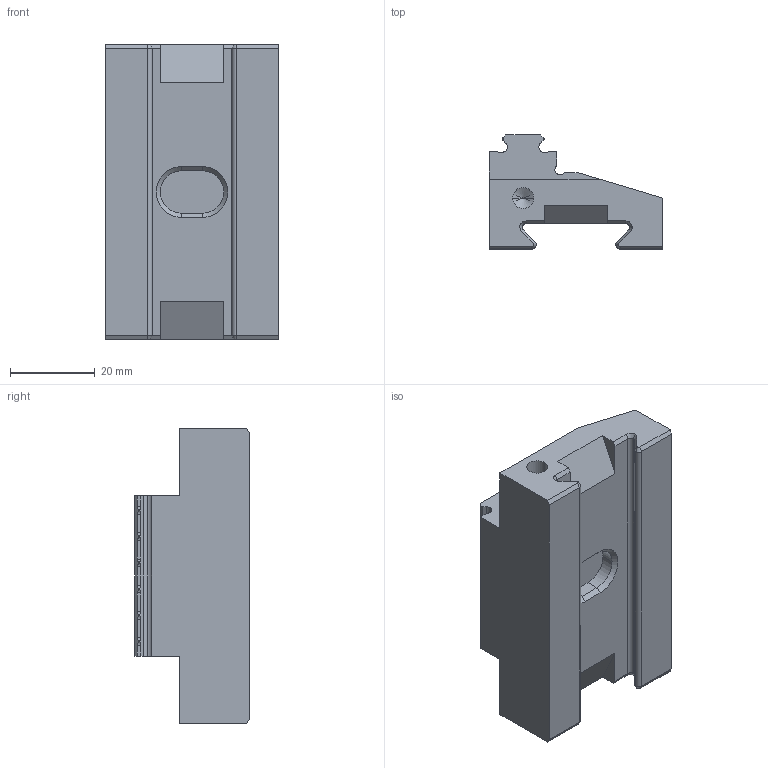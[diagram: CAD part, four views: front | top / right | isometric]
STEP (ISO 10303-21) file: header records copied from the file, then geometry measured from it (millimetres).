
FILE_DESCRIPTION (( 'STEP AP214' ), '1' );
FILE_NAME ('6921544020131.STEP', '2017-12-21T13:11:27', ( '' ), ( '' ), 'SwSTEP 2.0', 'SolidWorks 2016', '' );
FILE_SCHEMA (( 'AUTOMOTIVE_DESIGN' ));
Length unit declared in the file: millimetre
Products named in the file (1): 6921544020131
Bounding box: 41 x 27 x 70 mm (x, y, z)
Volume: 39559.8 mm3; surface area: 11901.5 mm2
Topology: 1 solids, 1 shells, 295 faces, 793 edges, 518 vertices
Faces by surface type: plane 164, bspline 70, cylinder 43, cone 18
Entity records: 13403 total; most frequent: CARTESIAN_POINT 6537, ORIENTED_EDGE 1578, DIRECTION 1107, EDGE_CURVE 789, LINE 547, VECTOR 547, VERTEX_POINT 518, EDGE_LOOP 317
